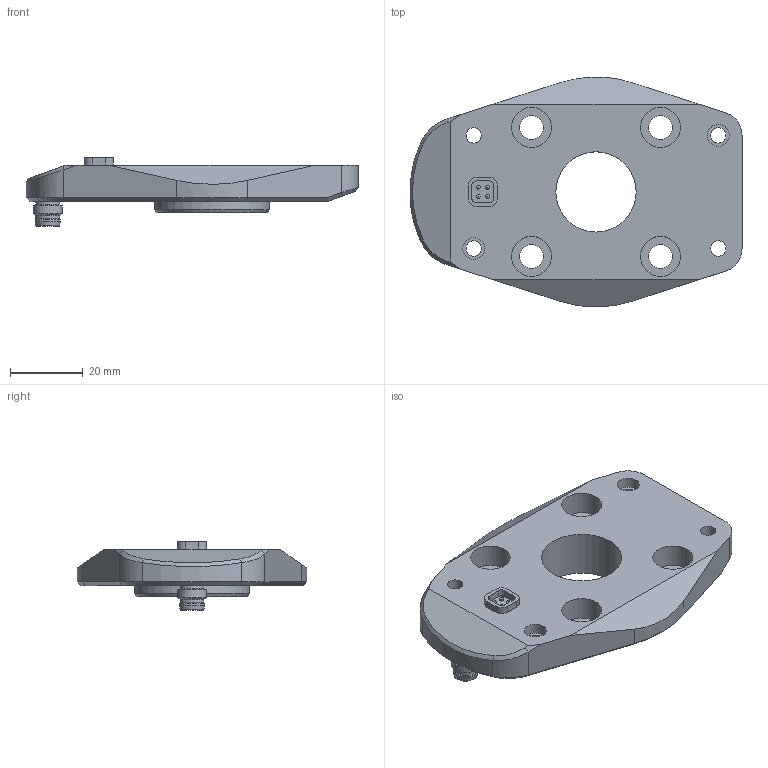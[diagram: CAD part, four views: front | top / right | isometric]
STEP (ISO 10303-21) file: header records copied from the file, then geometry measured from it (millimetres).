
FILE_DESCRIPTION(/* description */ ('CRG 30-030'),/* implementation_level */ '2;1');
FILE_NAME(/* name */ 'D:\CRG\Mechanik\CRG 30-050\Konturvereinfachung\output\crg30-050_mounting_plate_iso50.stp',/* time_stamp */ '2020-06-15T16:43:29+02:00',/* author */ ('K. Weiß'),/* organization */ ('Weiss Robotics'),/* preprocessor_version */ 'ST-DEVELOPER v17',/* originating_system */ 'Autodesk Inventor 2018',/* authorisation */ '');
FILE_SCHEMA (('AUTOMOTIVE_DESIGN { 1 0 10303 214 3 1 1 }'));
Length unit declared in the file: millimetre
Products named in the file (1): CRG30-0021
Bounding box: 90.96 x 63 x 18.75 mm (x, y, z)
Volume: 36407.5 mm3; surface area: 13863.2 mm2
Topology: 10 solids, 10 shells, 130 faces, 323 edges, 217 vertices
Faces by surface type: cylinder 51, plane 47, cone 13, bspline 10, sphere 8, torus 1
Full cylindrical faces by diameter (mm): 1 x8, 4.2 x4, 5.2 x3, 5.8 x1, 6 x2, 6.5 x6, 6.9 x1, 8 x5, 11 x4, 22 x1, 31.5 x1
Entity records: 4173 total; most frequent: CARTESIAN_POINT 944, DIRECTION 681, ORIENTED_EDGE 624, EDGE_CURVE 312, AXIS2_PLACEMENT_3D 280, VERTEX_POINT 217, EDGE_LOOP 163, CIRCLE 153
